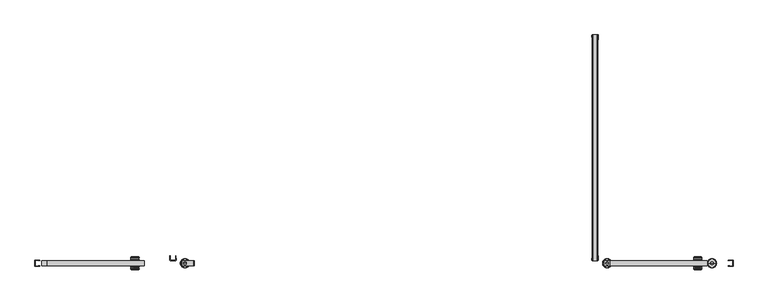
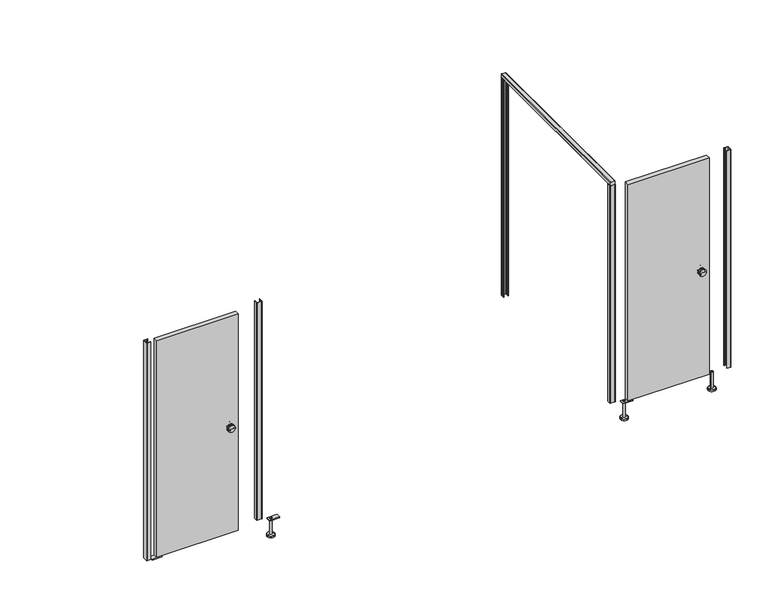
"""IFC4 building model written with IfcOpenShell, lengths in millimetres: proxy geometry, Partition_EuroStyle-Bradley_Corp-5StandardStall-NEP-LOFT : Partition_EuroStyle-Bradley_Corp-5StandardStall-NEP-LOFT."""

from ifc_helpers import new_model, si_unit, point, frame, frame_2d, origin, place, context, project, spatial, polyline, circle_curve, ellipse_curve, trimmed, segment, composite_curve, outline, extrude, source, transform, mapped, element, save
from ifc_brep_helpers import plane_surface, cylinder_surface, revolved_surface, advanced_brep


def specialty_equipment_231d2768(model_context):
    return source(origin(), model_context, "Body", "SolidModel", [
        extrude(outline(composite_curve([segment(polyline([(2032.9666591, 3638.6203701), (2005.7492965, 3639.0741806)]), True, "CONTINUOUS"), segment(trimmed(circle_curve(frame_2d((2005.762, 3639.8360747)), 0.762), [point((2005.7492965, 3639.0741806))], [point((2005.0, 3639.8360747))], False, "CARTESIAN"), True, "CONTINUOUS"), segment(polyline([(2005.0, 3639.8360747), (2005.0, 3673.3733505)]), True, "CONTINUOUS"), segment(trimmed(circle_curve(frame_2d((2005.79375, 3673.3733505)), 0.79375), [point((2005.0, 3673.3733505))], [point((2005.7805172, 3674.1669902))], False, "CARTESIAN"), True, "CONTINUOUS"), segment(polyline([(2005.7805172, 3674.1669902), (2032.9666591, 3674.6202802)]), True, "CONTINUOUS"), segment(trimmed(circle_curve(frame_2d((2033.0000015, 3672.6205597)), 1.9999985), [point((2032.9666591, 3674.6202802))], [point((2035.0, 3672.6205597))], False, "CARTESIAN"), True, "CONTINUOUS"), segment(polyline([(2035.0, 3672.6205597), (2035.0, 3640.6200907)]), True, "CONTINUOUS"), segment(trimmed(circle_curve(frame_2d((2033.0000015, 3640.6200907)), 1.9999985), [point((2035.0, 3640.6200907))], [point((2032.9666591, 3638.6203701))], False, "CARTESIAN"), True, "CONTINUOUS")], self_intersect=False)), frame((0.0, -1524.0, 0.0), z_axis=(0.0, 1.0, 0.0), x_axis=(0.0, 0.0, 1.0)), (0.0, 0.0, 1.0), 1524.0),
        extrude(outline(composite_curve([segment(polyline([(3636.1288796, -1491.4999998), (3637.6274652, -1491.4999998)]), True, "CONTINUOUS"), segment(trimmed(circle_curve(frame_2d((3637.6238978, -1492.4990918)), 0.9990984), [point((3637.6274652, -1491.4999998))], [point((3638.0975504, -1493.3787798))], False, "CARTESIAN"), True, "CONTINUOUS"), segment(polyline([(3638.0975504, -1493.3787798), (3637.9764404, -1500.6424298)]), True, "CONTINUOUS"), segment(trimmed(circle_curve(frame_2d((3637.4588945, -1501.4999449)), 1.0015917), [point((3637.9764404, -1500.6424298))], [point((3637.9475604, -1502.3742398))], False, "CARTESIAN"), True, "CONTINUOUS"), segment(polyline([(3637.9475604, -1502.3742398), (3637.6535049, -1520.0104531)]), True, "CONTINUOUS"), segment(trimmed(circle_curve(frame_2d((3639.6536968, -1519.9997796)), 2.0002204), [point((3637.6535049, -1520.0104531))], [point((3639.6536968, -1522.0))], True, "CARTESIAN"), True, "CONTINUOUS"), segment(polyline([(3639.6536968, -1522.0), (3673.5379958, -1522.0)]), True, "CONTINUOUS"), segment(trimmed(circle_curve(frame_2d((3673.5870154, -1520.0009061)), 1.9996948), [point((3673.5379958, -1522.0))], [point((3675.58671, -1520.0))], True, "CARTESIAN"), True, "CONTINUOUS"), segment(polyline([(3675.58671, -1520.0), (3675.2926587, -1502.3739987)]), True, "CONTINUOUS"), segment(trimmed(circle_curve(frame_2d((3675.7817558, -1501.4999449)), 1.0015917), [point((3675.2926587, -1502.3739987))], [point((3675.2642099, -1500.6424298))], False, "CARTESIAN"), True, "CONTINUOUS"), segment(polyline([(3675.2642099, -1500.6424298), (3675.1430999, -1493.3787798)]), True, "CONTINUOUS"), segment(trimmed(circle_curve(frame_2d((3675.6167525, -1492.4990918)), 0.9990984), [point((3675.1430999, -1493.3787798))], [point((3675.6131851, -1491.4999998))], False, "CARTESIAN"), True, "CONTINUOUS"), segment(polyline([(3675.6131851, -1491.4999998), (3677.1117707, -1491.4999998), (3677.6201098, -1521.97082)]), True, "CONTINUOUS"), segment(trimmed(circle_curve(frame_2d((3675.5909298, -1521.97082)), 2.02918), [point((3677.6201098, -1521.97082))], [point((3675.5909298, -1524.0))], False, "CARTESIAN"), True, "CONTINUOUS"), segment(polyline([(3675.5909298, -1524.0), (3637.6497205, -1524.0)]), True, "CONTINUOUS"), segment(trimmed(circle_curve(frame_2d((3637.6497205, -1521.97082)), 2.02918), [point((3637.6497205, -1524.0))], [point((3635.6205405, -1521.97082))], False, "CARTESIAN"), True, "CONTINUOUS"), segment(polyline([(3635.6205405, -1521.97082), (3636.1288796, -1491.4999998)]), True, "CONTINUOUS")], self_intersect=False)), frame((0.0, 0.0, 150.0), z_axis=(0.0, 0.0, 1.0), x_axis=(1.0, 0.0, 0.0)), (0.0, 0.0, 1.0), 1855.0),
        extrude(outline(polyline([(146.0000008, 3719.518346), (138.0669895, 3719.518346), (138.0669895, 3799.3655791), (146.0000008, 3799.267017), (146.0000008, 3719.518346)])), frame((0.0, -1559.4621549, 0.0), z_axis=(0.0, 1.0, 0.0), x_axis=(0.0, 0.0, 1.0)), (0.0, 0.0, 1.0), 34.925),
        advanced_brep(
        [(3747.118345, -1541.9996549, 150.0000008), (3729.1183456, -1541.9996549, 150.0000008), (3729.1183456, -1541.9996549, 12.0000001), (3747.118345, -1541.9996549, 12.0000001), (3738.1183453, -1541.9996549, 150.0000008), (3769.1183443, -1541.9996549, 0.0), (3707.1183464, -1541.9996549, 0.0), (3738.1183453, -1541.9996549, 0.0), (3769.1183443, -1541.9996549, 10.0000001), (3707.1183464, -1541.9996549, 10.0000001), (3767.1159324, -1541.9996549, 12.0000001), (3709.1207583, -1541.9996549, 12.0000001)],
        [
            (0, 1, circle_curve(frame((3738.1183453, -1541.9996549, 150.0000008), z_axis=(0.0, 0.0, -1.0), x_axis=(-1.0, 0.0, 0.0)), 8.9999997)),
            (1, 2),
            (2, 3, circle_curve(frame((3738.1183453, -1541.9996549, 12.0000001), z_axis=(0.0, 0.0, 1.0), x_axis=(-1.0, 0.0, 0.0)), 8.9999997)),
            (3, 0),
            (1, 0, circle_curve(frame((3738.1183453, -1541.9996549, 150.0000008), z_axis=(0.0, 0.0, -1.0), x_axis=(-1.0, 0.0, 0.0)), 8.9999997)),
            (3, 2, circle_curve(frame((3738.1183453, -1541.9996549, 12.0000001), z_axis=(0.0, 0.0, 1.0), x_axis=(-1.0, 0.0, 0.0)), 8.9999997)),
            (4, 1),
            (0, 4),
            (5, 6, circle_curve(frame((3738.1183453, -1541.9996549, 0.0), z_axis=(0.0, 0.0, -1.0), x_axis=(-1.0, 0.0, 0.0)), 30.9999989)),
            (6, 7),
            (7, 5),
            (6, 5, circle_curve(frame((3738.1183453, -1541.9996549, 0.0), z_axis=(0.0, 0.0, -1.0), x_axis=(-1.0, 0.0, 0.0)), 30.9999989)),
            (8, 9, circle_curve(frame((3738.1183453, -1541.9996549, 10.0000001), z_axis=(0.0, 0.0, -1.0), x_axis=(-1.0, 0.0, 0.0)), 30.9999989)),
            (9, 6),
            (5, 8),
            (9, 8, circle_curve(frame((3738.1183453, -1541.9996549, 10.0000001), z_axis=(0.0, 0.0, -1.0), x_axis=(-1.0, 0.0, 0.0)), 30.9999989)),
            (10, 11, circle_curve(frame((3738.1183453, -1541.9996549, 12.0000001), z_axis=(0.0, 0.0, -1.0), x_axis=(-1.0, 0.0, 0.0)), 28.997587)),
            (11, 9),
            (8, 10),
            (11, 10, circle_curve(frame((3738.1183453, -1541.9996549, 12.0000001), z_axis=(0.0, 0.0, -1.0), x_axis=(-1.0, 0.0, 0.0)), 28.997587)),
            (2, 11),
            (10, 3),
        ],
        [
            cylinder_surface(frame((3738.1183453, -1541.9996549, 0.0), z_axis=(0.0, 0.0, 1.0), x_axis=(-1.0, 0.0, 0.0)), 8.9999997),
            plane_surface(frame((3738.1183453, -1541.9996549, 150.0000008), z_axis=(0.0, 0.0, 1.0), x_axis=(-1.0, 0.0, 0.0))),
            plane_surface(frame((3738.1183453, -1541.9996549, 0.0), z_axis=(0.0, 0.0, -1.0), x_axis=(-1.0, 0.0, 0.0))),
            cylinder_surface(frame((3738.1183453, -1541.9996549, 0.0), z_axis=(0.0, 0.0, 1.0), x_axis=(-1.0, 0.0, 0.0)), 30.9999989),
            revolved_surface(polyline([(3707.1183464, -1541.9996549, 10.0000001), (3709.1207583, -1541.9996549, 12.0000001)]), (3738.1183453, -1541.9996549, 0.0), (0.0, 0.0, 1.0)),
            plane_surface(frame((3738.1183453, -1541.9996549, 12.0000001), z_axis=(0.0, 0.0, 1.0), x_axis=(-1.0, 0.0, 0.0))),
        ],
        [
            (0, [[1, 2, 3, 4]]),
            (0, [[5, -4, 6, -2]]),
            (1, [[7, -1, 8]]),
            (1, [[-8, -5, -7]]),
            (2, [[9, 10, 11]]),
            (2, [[12, -11, -10]]),
            (3, [[13, 14, -9, 15]]),
            (3, [[16, -15, -12, -14]]),
            (4, [[17, 18, -13, 19]]),
            (4, [[20, -19, -16, -18]]),
            (5, [[-3, 21, -17, 22]]),
            (5, [[-6, -22, -20, -21]]),
        ],
    ),
        advanced_brep(
        [(4321.6484114, -1524.0098174, 1050.0), (4378.7984114, -1524.0098174, 1050.0), (4350.2234114, -1524.0098174, 1050.0), (4321.6484114, -1519.2473174, 1050.0), (4378.7984114, -1519.2473174, 1050.0), (4321.6484114, -1500.1973174, 1050.0), (4378.7984114, -1500.1973174, 1050.0), (4378.7984114, -1504.9598174, 1050.0), (4321.6484114, -1504.9598174, 1050.0), (4377.2109114, -1506.5473174, 1050.0), (4323.2359114, -1506.5473174, 1050.0), (4377.2109114, -1517.6598174, 1050.0), (4323.2359114, -1517.6598174, 1050.0), (4350.2234114, -1498.6098174, 1050.0)],
        [
            (0, 1, circle_curve(frame((4350.2234114, -1524.0098174, 1050.0), z_axis=(0.0, -1.0, 0.0), x_axis=(1.0000000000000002, 0.0, 0.0)), 28.575)),
            (1, 2),
            (2, 0),
            (1, 0, circle_curve(frame((4350.2234114, -1524.0098174, 1050.0), z_axis=(0.0, -1.0, 0.0), x_axis=(1.0000000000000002, 0.0, 0.0)), 28.575)),
            (3, 4, circle_curve(frame((4350.2234114, -1519.2473174, 1050.0), z_axis=(0.0, -1.0, 0.0), x_axis=(1.0000000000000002, 0.0, 0.0)), 28.575)),
            (4, 1),
            (0, 3),
            (4, 3, circle_curve(frame((4350.2234114, -1519.2473174, 1050.0), z_axis=(0.0, -1.0, 0.0), x_axis=(1.0000000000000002, 0.0, 0.0)), 28.575)),
            (5, 6, circle_curve(frame((4350.2234114, -1500.1973174, 1050.0), z_axis=(0.0, -1.0, 0.0), x_axis=(1.0000000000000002, 0.0, 0.0)), 28.575)),
            (6, 7),
            (7, 8, circle_curve(frame((4350.2234114, -1504.9598174, 1050.0), z_axis=(0.0, 1.0, 0.0), x_axis=(1.0000000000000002, 0.0, 0.0)), 28.575)),
            (8, 5),
            (6, 5, circle_curve(frame((4350.2234114, -1500.1973174, 1050.0), z_axis=(0.0, -1.0, 0.0), x_axis=(1.0000000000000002, 0.0, 0.0)), 28.575)),
            (8, 7, circle_curve(frame((4350.2234114, -1504.9598174, 1050.0), z_axis=(0.0, 1.0, 0.0), x_axis=(1.0000000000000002, 0.0, 0.0)), 28.575)),
            (7, 9, circle_curve(frame((4378.7984114, -1506.5473174, 1050.0), z_axis=(0.0, 0.0, 1.0), x_axis=(1.0000000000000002, 0.0, 0.0)), 1.5875)),
            (9, 10, circle_curve(frame((4350.2234114, -1506.5473174, 1050.0), z_axis=(0.0, 1.0, 0.0), x_axis=(1.0000000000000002, 0.0, 0.0)), 26.9875)),
            (10, 8, circle_curve(frame((4321.6484114, -1506.5473174, 1050.0), z_axis=(0.0, 0.0, 1.0), x_axis=(-1.0000000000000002, 0.0, 0.0)), 1.5875)),
            (10, 9, circle_curve(frame((4350.2234114, -1506.5473174, 1050.0), z_axis=(0.0, 1.0, 0.0), x_axis=(1.0000000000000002, 0.0, 0.0)), 26.9875)),
            (9, 11),
            (11, 12, circle_curve(frame((4350.2234114, -1517.6598174, 1050.0), z_axis=(0.0, 1.0, 0.0), x_axis=(1.0000000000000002, 0.0, 0.0)), 26.9875)),
            (12, 10),
            (12, 11, circle_curve(frame((4350.2234114, -1517.6598174, 1050.0), z_axis=(0.0, 1.0, 0.0), x_axis=(1.0000000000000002, 0.0, 0.0)), 26.9875)),
            (11, 4, circle_curve(frame((4378.7984114, -1517.6598174, 1050.0), z_axis=(0.0, 0.0, 1.0), x_axis=(1.0000000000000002, 0.0, 0.0)), 1.5875)),
            (3, 12, circle_curve(frame((4321.6484114, -1517.6598174, 1050.0), z_axis=(0.0, 0.0, 1.0), x_axis=(-1.0000000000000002, 0.0, 0.0)), 1.5875)),
            (13, 6, circle_curve(frame((4353.9175348, -1690.0843466, 1050.0), z_axis=(0.0, 0.0, -1.0), x_axis=(1.0000000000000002, 0.0, 0.0)), 191.5101613)),
            (5, 13, circle_curve(frame((4346.5292881, -1690.0843466, 1050.0), z_axis=(0.0, 0.0, -1.0), x_axis=(-1.0000000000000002, 0.0, 0.0)), 191.5101613)),
        ],
        [
            plane_surface(frame((4350.2234114, -1524.0098174, 1050.0), z_axis=(0.0, -1.0, 0.0), x_axis=(1.0, 0.0, 0.0))),
            cylinder_surface(frame((4350.2234114, -1524.0098174, 1050.0), z_axis=(0.0, 1.0000000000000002, 0.0), x_axis=(1.0000000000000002, 0.0, 0.0)), 28.575),
            revolved_surface(trimmed(ellipse_curve(frame((4378.7984114, -1506.5473174, 1050.0), z_axis=(0.0, 0.0, -1.0), x_axis=(1.0000000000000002, 0.0, 0.0)), 1.5875, 1.5875), [point((4377.2109114, -1506.5473174, 1050.0))], [point((4378.7984114, -1504.9598174, 1050.0))], True, "CARTESIAN"), (4350.2234114, -1524.0098174, 1050.0), (0.0, 1.0000000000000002, 0.0)),
            cylinder_surface(frame((4350.2234114, -1524.0098174, 1050.0), z_axis=(0.0, 1.0000000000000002, 0.0), x_axis=(1.0000000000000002, 0.0, 0.0)), 26.9875),
            revolved_surface(trimmed(ellipse_curve(frame((4378.7984114, -1517.6598174, 1050.0), z_axis=(0.0, 0.0, -1.0), x_axis=(1.0000000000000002, 0.0, 0.0)), 1.5875, 1.5875), [point((4378.7984114, -1519.2473174, 1050.0))], [point((4377.2109114, -1517.6598174, 1050.0))], True, "CARTESIAN"), (4350.2234114, -1524.0098174, 1050.0), (0.0, 1.0000000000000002, 0.0)),
            revolved_surface(trimmed(ellipse_curve(frame((4353.9175348, -1690.0843466, 1050.0), z_axis=(0.0, 0.0, 1.0), x_axis=(1.0000000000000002, 0.0, 0.0)), 191.5101613, 191.5101613), [point((4378.7984114, -1500.1973174, 1050.0))], [point((4350.2234114, -1498.6098174, 1050.0))], True, "CARTESIAN"), (4350.2234114, -1524.0098174, 1050.0), (0.0, 1.0000000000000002, 0.0)),
        ],
        [
            (0, [[1, 2, 3]]),
            (0, [[4, -3, -2]]),
            (1, [[5, 6, -1, 7]]),
            (1, [[8, -7, -4, -6]]),
            (1, [[9, 10, 11, 12]]),
            (1, [[13, -12, 14, -10]]),
            (2, [[-11, 15, 16, 17]]),
            (2, [[-14, -17, 18, -15]]),
            (3, [[-16, 19, 20, 21]]),
            (3, [[-18, -21, 22, -19]]),
            (4, [[-20, 23, -5, 24]]),
            (4, [[-22, -24, -8, -23]]),
            (5, [[25, -9, 26]]),
            (5, [[-26, -13, -25]]),
        ],
    ),
        advanced_brep(
        [(4350.2234114, -1560.0098174, 1050.0), (4378.7984114, -1560.0098174, 1050.0), (4321.6484114, -1560.0098174, 1050.0), (4378.7984114, -1564.7723174, 1050.0), (4321.6484114, -1564.7723174, 1050.0), (4321.6484114, -1579.0598174, 1050.0), (4378.7984114, -1579.0598174, 1050.0), (4378.7984114, -1583.8223174, 1050.0), (4321.6484114, -1583.8223174, 1050.0), (4323.2359114, -1577.4723174, 1050.0), (4377.2109114, -1577.4723174, 1050.0), (4323.2359114, -1566.3598174, 1050.0), (4377.2109114, -1566.3598174, 1050.0), (4350.2234114, -1585.4098174, 1050.0)],
        [
            (0, 1),
            (1, 2, circle_curve(frame((4350.2234114, -1560.0098174, 1050.0), z_axis=(0.0, 1.0, 0.0), x_axis=(1.0000000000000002, 0.0, 0.0)), 28.575)),
            (2, 0),
            (2, 1, circle_curve(frame((4350.2234114, -1560.0098174, 1050.0), z_axis=(0.0, 1.0, 0.0), x_axis=(1.0000000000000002, 0.0, 0.0)), 28.575)),
            (1, 3),
            (3, 4, circle_curve(frame((4350.2234114, -1564.7723174, 1050.0), z_axis=(0.0, 1.0, 0.0), x_axis=(1.0000000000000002, 0.0, 0.0)), 28.575)),
            (4, 2),
            (4, 3, circle_curve(frame((4350.2234114, -1564.7723174, 1050.0), z_axis=(0.0, 1.0, 0.0), x_axis=(1.0000000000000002, 0.0, 0.0)), 28.575)),
            (5, 6, circle_curve(frame((4350.2234114, -1579.0598174, 1050.0), z_axis=(0.0, -1.0, 0.0), x_axis=(1.0000000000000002, 0.0, 0.0)), 28.575)),
            (6, 7),
            (7, 8, circle_curve(frame((4350.2234114, -1583.8223174, 1050.0), z_axis=(0.0, 1.0, 0.0), x_axis=(1.0000000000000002, 0.0, 0.0)), 28.575)),
            (8, 5),
            (6, 5, circle_curve(frame((4350.2234114, -1579.0598174, 1050.0), z_axis=(0.0, -1.0, 0.0), x_axis=(1.0000000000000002, 0.0, 0.0)), 28.575)),
            (8, 7, circle_curve(frame((4350.2234114, -1583.8223174, 1050.0), z_axis=(0.0, 1.0, 0.0), x_axis=(1.0000000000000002, 0.0, 0.0)), 28.575)),
            (9, 10, circle_curve(frame((4350.2234114, -1577.4723174, 1050.0), z_axis=(0.0, -1.0, 0.0), x_axis=(1.0000000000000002, 0.0, 0.0)), 26.9875)),
            (10, 6, circle_curve(frame((4378.7984114, -1577.4723174, 1050.0), z_axis=(0.0, 0.0, 1.0), x_axis=(1.0000000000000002, 0.0, 0.0)), 1.5875)),
            (5, 9, circle_curve(frame((4321.6484114, -1577.4723174, 1050.0), z_axis=(0.0, 0.0, 1.0), x_axis=(-1.0000000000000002, 0.0, 0.0)), 1.5875)),
            (10, 9, circle_curve(frame((4350.2234114, -1577.4723174, 1050.0), z_axis=(0.0, -1.0, 0.0), x_axis=(1.0000000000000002, 0.0, 0.0)), 26.9875)),
            (11, 12, circle_curve(frame((4350.2234114, -1566.3598174, 1050.0), z_axis=(0.0, -1.0, 0.0), x_axis=(1.0000000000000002, 0.0, 0.0)), 26.9875)),
            (12, 10),
            (9, 11),
            (12, 11, circle_curve(frame((4350.2234114, -1566.3598174, 1050.0), z_axis=(0.0, -1.0, 0.0), x_axis=(1.0000000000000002, 0.0, 0.0)), 26.9875)),
            (3, 12, circle_curve(frame((4378.7984114, -1566.3598174, 1050.0), z_axis=(0.0, 0.0, 1.0), x_axis=(1.0000000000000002, 0.0, 0.0)), 1.5875)),
            (11, 4, circle_curve(frame((4321.6484114, -1566.3598174, 1050.0), z_axis=(0.0, 0.0, 1.0), x_axis=(-1.0000000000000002, 0.0, 0.0)), 1.5875)),
            (7, 13, circle_curve(frame((4353.9175348, -1393.9352882, 1050.0), z_axis=(0.0, 0.0, -1.0), x_axis=(1.0000000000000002, 0.0, 0.0)), 191.5101613)),
            (13, 8, circle_curve(frame((4346.5292881, -1393.9352882, 1050.0), z_axis=(0.0, 0.0, -1.0), x_axis=(-1.0000000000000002, 0.0, 0.0)), 191.5101613)),
        ],
        [
            plane_surface(frame((4350.2234114, -1560.0098174, 1050.0), z_axis=(0.0, 1.0, 0.0), x_axis=(1.0, 0.0, 0.0))),
            cylinder_surface(frame((4350.2234114, -1560.0098174, 1050.0), z_axis=(0.0, 1.0000000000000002, 0.0), x_axis=(1.0000000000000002, 0.0, 0.0)), 28.575),
            revolved_surface(trimmed(ellipse_curve(frame((4378.7984114, -1577.4723174, 1050.0), z_axis=(0.0, 0.0, -1.0), x_axis=(1.0000000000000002, 0.0, 0.0)), 1.5875, 1.5875), [point((4378.7984114, -1579.0598174, 1050.0))], [point((4377.2109114, -1577.4723174, 1050.0))], True, "CARTESIAN"), (4350.2234114, -1560.0098174, 1050.0), (0.0, 1.0000000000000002, 0.0)),
            cylinder_surface(frame((4350.2234114, -1560.0098174, 1050.0), z_axis=(0.0, 1.0000000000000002, 0.0), x_axis=(1.0000000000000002, 0.0, 0.0)), 26.9875),
            revolved_surface(trimmed(ellipse_curve(frame((4378.7984114, -1566.3598174, 1050.0), z_axis=(0.0, 0.0, -1.0), x_axis=(1.0000000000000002, 0.0, 0.0)), 1.5875, 1.5875), [point((4377.2109114, -1566.3598174, 1050.0))], [point((4378.7984114, -1564.7723174, 1050.0))], True, "CARTESIAN"), (4350.2234114, -1560.0098174, 1050.0), (0.0, 1.0000000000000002, 0.0)),
            revolved_surface(trimmed(ellipse_curve(frame((4353.9175348, -1393.9352882, 1050.0), z_axis=(0.0, 0.0, 1.0), x_axis=(1.0000000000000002, 0.0, 0.0)), 191.5101613, 191.5101613), [point((4350.2234114, -1585.4098174, 1050.0))], [point((4378.7984114, -1583.8223174, 1050.0))], True, "CARTESIAN"), (4350.2234114, -1560.0098174, 1050.0), (0.0, 1.0000000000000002, 0.0)),
        ],
        [
            (0, [[1, 2, 3]]),
            (0, [[-3, 4, -1]]),
            (1, [[-2, 5, 6, 7]]),
            (1, [[-4, -7, 8, -5]]),
            (1, [[9, 10, 11, 12]]),
            (1, [[13, -12, 14, -10]]),
            (2, [[15, 16, -9, 17]]),
            (2, [[18, -17, -13, -16]]),
            (3, [[19, 20, -15, 21]]),
            (3, [[22, -21, -18, -20]]),
            (4, [[-6, 23, -19, 24]]),
            (4, [[-8, -24, -22, -23]]),
            (5, [[-11, 25, 26]]),
            (5, [[-14, -26, -25]]),
        ],
    ),
        extrude(outline(polyline([(3758.6203251, -1523.9894923), (4413.7234114, -1523.9894923), (4413.7234114, -1560.0098174), (3758.6203251, -1560.0098174), (3758.6203251, -1523.9894923)])), frame((0.0, 0.0, 150.1179687), z_axis=(0.0, 0.0, 1.0), x_axis=(1.0, 0.0, 0.0)), (0.0, 0.0, 1.0), 1845.8820313),
        extrude(outline(composite_curve([segment(polyline([(3636.1288796, -32.5000002), (3635.6205405, -2.02918)]), True, "CONTINUOUS"), segment(trimmed(circle_curve(frame_2d((3637.6497205, -2.02918)), 2.02918), [point((3635.6205405, -2.02918))], [point((3637.6497205, 0.0))], False, "CARTESIAN"), True, "CONTINUOUS"), segment(polyline([(3637.6497205, 0.0), (3675.5909298, 0.0)]), True, "CONTINUOUS"), segment(trimmed(circle_curve(frame_2d((3675.5909298, -2.02918)), 2.02918), [point((3675.5909298, 0.0))], [point((3677.6201098, -2.02918))], False, "CARTESIAN"), True, "CONTINUOUS"), segment(polyline([(3677.6201098, -2.02918), (3677.1117707, -32.5000002), (3675.6131851, -32.5000002)]), True, "CONTINUOUS"), segment(trimmed(circle_curve(frame_2d((3675.6167525, -31.5009082)), 0.9990984), [point((3675.6131851, -32.5000002))], [point((3675.1430999, -30.6212202))], False, "CARTESIAN"), True, "CONTINUOUS"), segment(polyline([(3675.1430999, -30.6212202), (3675.2642099, -23.3575702)]), True, "CONTINUOUS"), segment(trimmed(circle_curve(frame_2d((3675.7817558, -22.5000551)), 1.0015917), [point((3675.2642099, -23.3575702))], [point((3675.2926587, -21.6260013))], False, "CARTESIAN"), True, "CONTINUOUS"), segment(polyline([(3675.2926587, -21.6260013), (3675.58671, -4.0)]), True, "CONTINUOUS"), segment(trimmed(circle_curve(frame_2d((3673.5870154, -3.9990939)), 1.9996948), [point((3675.58671, -4.0))], [point((3673.5379958, -2.0))], True, "CARTESIAN"), True, "CONTINUOUS"), segment(polyline([(3673.5379958, -2.0), (3639.6536968, -2.0)]), True, "CONTINUOUS"), segment(trimmed(circle_curve(frame_2d((3639.6536968, -4.0002204)), 2.0002204), [point((3639.6536968, -2.0))], [point((3637.6535049, -3.9895469))], True, "CARTESIAN"), True, "CONTINUOUS"), segment(polyline([(3637.6535049, -3.9895469), (3637.9475604, -21.6257602)]), True, "CONTINUOUS"), segment(trimmed(circle_curve(frame_2d((3637.4588945, -22.5000551)), 1.0015917), [point((3637.9475604, -21.6257602))], [point((3637.9764404, -23.3575702))], False, "CARTESIAN"), True, "CONTINUOUS"), segment(polyline([(3637.9764404, -23.3575702), (3638.0975504, -30.6212202)]), True, "CONTINUOUS"), segment(trimmed(circle_curve(frame_2d((3637.6238978, -31.5009082)), 0.9990984), [point((3638.0975504, -30.6212202))], [point((3637.6274652, -32.5000002))], False, "CARTESIAN"), True, "CONTINUOUS"), segment(polyline([(3637.6274652, -32.5000002), (3636.1288796, -32.5000002)]), True, "CONTINUOUS")], self_intersect=False)), frame((0.0, 0.0, 150.0), z_axis=(0.0, 0.0, 1.0), x_axis=(1.0, 0.0, 0.0)), (0.0, 0.0, 1.0), 1855.0),
        extrude(outline(composite_curve([segment(polyline([(4556.5203249, -1562.4911004), (4556.5203249, -1560.9925148)]), True, "CONTINUOUS"), segment(trimmed(circle_curve(frame_2d((4557.519417, -1560.9960822)), 0.9990984), [point((4556.5203249, -1560.9925148))], [point((4558.3991049, -1560.5224296))], False, "CARTESIAN"), True, "CONTINUOUS"), segment(polyline([(4558.3991049, -1560.5224296), (4565.662755, -1560.6435396)]), True, "CONTINUOUS"), segment(trimmed(circle_curve(frame_2d((4566.5202701, -1561.1610855)), 1.0015917), [point((4565.662755, -1560.6435396))], [point((4567.394565, -1560.6724196))], False, "CARTESIAN"), True, "CONTINUOUS"), segment(polyline([(4567.394565, -1560.6724196), (4585.0307782, -1560.9664751)]), True, "CONTINUOUS"), segment(trimmed(circle_curve(frame_2d((4585.0201048, -1558.9662832)), 2.0002204), [point((4585.0307782, -1560.9664751))], [point((4587.0203252, -1558.9662832))], True, "CARTESIAN"), True, "CONTINUOUS"), segment(polyline([(4587.0203252, -1558.9662832), (4587.0203251, -1525.0819842)]), True, "CONTINUOUS"), segment(trimmed(circle_curve(frame_2d((4585.0212312, -1525.0329646)), 1.9996948), [point((4587.0203251, -1525.0819842))], [point((4585.0203251, -1523.03327))], True, "CARTESIAN"), True, "CONTINUOUS"), segment(polyline([(4585.0203251, -1523.03327), (4567.3943238, -1523.3273213)]), True, "CONTINUOUS"), segment(trimmed(circle_curve(frame_2d((4566.5202701, -1522.8382242)), 1.0015917), [point((4567.3943238, -1523.3273213))], [point((4565.662755, -1523.3557701))], False, "CARTESIAN"), True, "CONTINUOUS"), segment(polyline([(4565.662755, -1523.3557701), (4558.3991049, -1523.4768801)]), True, "CONTINUOUS"), segment(trimmed(circle_curve(frame_2d((4557.519417, -1523.0032275)), 0.9990984), [point((4558.3991049, -1523.4768801))], [point((4556.5203249, -1523.0067949))], False, "CARTESIAN"), True, "CONTINUOUS"), segment(polyline([(4556.5203249, -1523.0067949), (4556.5203249, -1521.5082093), (4586.9911451, -1520.9998702)]), True, "CONTINUOUS"), segment(trimmed(circle_curve(frame_2d((4586.9911451, -1523.0290502)), 2.02918), [point((4586.9911451, -1520.9998702))], [point((4589.0203251, -1523.0290502))], False, "CARTESIAN"), True, "CONTINUOUS"), segment(polyline([(4589.0203251, -1523.0290502), (4589.0203251, -1560.9702595)]), True, "CONTINUOUS"), segment(trimmed(circle_curve(frame_2d((4586.9911451, -1560.9702595)), 2.02918), [point((4589.0203251, -1560.9702595))], [point((4586.9911451, -1562.9994395))], False, "CARTESIAN"), True, "CONTINUOUS"), segment(polyline([(4586.9911451, -1562.9994395), (4556.5203249, -1562.4911004)]), True, "CONTINUOUS")], self_intersect=False)), frame((0.0, 0.0, 150.0), z_axis=(0.0, 0.0, 1.0), x_axis=(1.0, 0.0, 0.0)), (0.0, 0.0, 1.0), 1855.0),
        advanced_brep(
        [(4437.1433456, -1541.9996549, 150.0000008), (4455.143345, -1541.9996549, 150.0000008), (4455.143345, -1541.9996549, 12.0000001), (4437.1433456, -1541.9996549, 12.0000001), (4446.1433453, -1541.9996549, 150.0000008), (4415.1433464, -1541.9996549, 0.0), (4477.1433443, -1541.9996549, 0.0), (4446.1433453, -1541.9996549, 0.0), (4415.1433464, -1541.9996549, 10.0000001), (4477.1433443, -1541.9996549, 10.0000001), (4417.1457583, -1541.9996549, 12.0000001), (4475.1409324, -1541.9996549, 12.0000001)],
        [
            (0, 1, circle_curve(frame((4446.1433453, -1541.9996549, 150.0000008), z_axis=(0.0, 0.0, -1.0), x_axis=(1.0, 0.0, 0.0)), 8.9999997)),
            (1, 2),
            (2, 3, circle_curve(frame((4446.1433453, -1541.9996549, 12.0000001), z_axis=(0.0, 0.0, 1.0), x_axis=(1.0, 0.0, 0.0)), 8.9999997)),
            (3, 0),
            (1, 0, circle_curve(frame((4446.1433453, -1541.9996549, 150.0000008), z_axis=(0.0, 0.0, -1.0), x_axis=(1.0, 0.0, 0.0)), 8.9999997)),
            (3, 2, circle_curve(frame((4446.1433453, -1541.9996549, 12.0000001), z_axis=(0.0, 0.0, 1.0), x_axis=(1.0, 0.0, 0.0)), 8.9999997)),
            (4, 1),
            (0, 4),
            (5, 6, circle_curve(frame((4446.1433453, -1541.9996549, 0.0), z_axis=(0.0, 0.0, -1.0), x_axis=(1.0, 0.0, 0.0)), 30.9999989)),
            (6, 7),
            (7, 5),
            (6, 5, circle_curve(frame((4446.1433453, -1541.9996549, 0.0), z_axis=(0.0, 0.0, -1.0), x_axis=(1.0, 0.0, 0.0)), 30.9999989)),
            (8, 9, circle_curve(frame((4446.1433453, -1541.9996549, 10.0000001), z_axis=(0.0, 0.0, -1.0), x_axis=(1.0, 0.0, 0.0)), 30.9999989)),
            (9, 6),
            (5, 8),
            (9, 8, circle_curve(frame((4446.1433453, -1541.9996549, 10.0000001), z_axis=(0.0, 0.0, -1.0), x_axis=(1.0, 0.0, 0.0)), 30.9999989)),
            (10, 11, circle_curve(frame((4446.1433453, -1541.9996549, 12.0000001), z_axis=(0.0, 0.0, -1.0), x_axis=(1.0, 0.0, 0.0)), 28.997587)),
            (11, 9),
            (8, 10),
            (11, 10, circle_curve(frame((4446.1433453, -1541.9996549, 12.0000001), z_axis=(0.0, 0.0, -1.0), x_axis=(1.0, 0.0, 0.0)), 28.997587)),
            (2, 11),
            (10, 3),
        ],
        [
            cylinder_surface(frame((4446.1433453, -1541.9996549, 0.0), z_axis=(0.0, 0.0, 1.0), x_axis=(1.0, 0.0, 0.0)), 8.9999997),
            plane_surface(frame((4446.1433453, -1541.9996549, 150.0000008), z_axis=(0.0, 0.0, 1.0), x_axis=(1.0, 0.0, 0.0))),
            plane_surface(frame((4446.1433453, -1541.9996549, 0.0), z_axis=(0.0, 0.0, -1.0), x_axis=(1.0, 0.0, 0.0))),
            cylinder_surface(frame((4446.1433453, -1541.9996549, 0.0), z_axis=(0.0, 0.0, 1.0), x_axis=(1.0, 0.0, 0.0)), 30.9999989),
            revolved_surface(polyline([(4477.1433443, -1541.9996549, 10.0000001), (4475.1409324, -1541.9996549, 12.0000001)]), (4446.1433453, -1541.9996549, 0.0), (0.0, 0.0, 1.0)),
            plane_surface(frame((4446.1433453, -1541.9996549, 12.0000001), z_axis=(0.0, 0.0, 1.0), x_axis=(1.0, 0.0, 0.0))),
        ],
        [
            (0, [[1, 2, 3, 4]]),
            (0, [[5, -4, 6, -2]]),
            (1, [[7, -1, 8]]),
            (1, [[-8, -5, -7]]),
            (2, [[9, 10, 11]]),
            (2, [[12, -11, -10]]),
            (3, [[13, 14, -9, 15]]),
            (3, [[16, -15, -12, -14]]),
            (4, [[17, 18, -13, 19]]),
            (4, [[20, -19, -16, -18]]),
            (5, [[-3, 21, -17, 22]]),
            (5, [[-6, -22, -20, -21]]),
        ],
    ),
        extrude(outline(composite_curve([segment(polyline([(784.918717, -1491.4999998), (786.4173026, -1491.4999998)]), True, "CONTINUOUS"), segment(trimmed(circle_curve(frame_2d((786.4137352, -1492.4990918)), 0.9990984), [point((786.4173026, -1491.4999998))], [point((786.8873879, -1493.3787798))], False, "CARTESIAN"), True, "CONTINUOUS"), segment(polyline([(786.8873879, -1493.3787798), (786.7662779, -1500.6424298)]), True, "CONTINUOUS"), segment(trimmed(circle_curve(frame_2d((786.248732, -1501.4999449)), 1.0015917), [point((786.7662779, -1500.6424298))], [point((786.7373979, -1502.3742398))], False, "CARTESIAN"), True, "CONTINUOUS"), segment(polyline([(786.7373979, -1502.3742398), (786.4433424, -1520.0104531)]), True, "CONTINUOUS"), segment(trimmed(circle_curve(frame_2d((788.4435342, -1519.9997796)), 2.0002204), [point((786.4433424, -1520.0104531))], [point((788.4435342, -1522.0))], True, "CARTESIAN"), True, "CONTINUOUS"), segment(polyline([(788.4435342, -1522.0), (822.3278332, -1522.0)]), True, "CONTINUOUS"), segment(trimmed(circle_curve(frame_2d((822.3768528, -1520.0009061)), 1.9996948), [point((822.3278332, -1522.0))], [point((824.3765475, -1520.0))], True, "CARTESIAN"), True, "CONTINUOUS"), segment(polyline([(824.3765475, -1520.0), (824.0824961, -1502.3739987)]), True, "CONTINUOUS"), segment(trimmed(circle_curve(frame_2d((824.5715932, -1501.4999449)), 1.0015917), [point((824.0824961, -1502.3739987))], [point((824.0540473, -1500.6424298))], False, "CARTESIAN"), True, "CONTINUOUS"), segment(polyline([(824.0540473, -1500.6424298), (823.9329373, -1493.3787798)]), True, "CONTINUOUS"), segment(trimmed(circle_curve(frame_2d((824.4065899, -1492.4990918)), 0.9990984), [point((823.9329373, -1493.3787798))], [point((824.4030225, -1491.4999998))], False, "CARTESIAN"), True, "CONTINUOUS"), segment(polyline([(824.4030225, -1491.4999998), (825.9016081, -1491.4999998), (826.4099473, -1521.97082)]), True, "CONTINUOUS"), segment(trimmed(circle_curve(frame_2d((824.3807672, -1521.97082)), 2.02918), [point((826.4099473, -1521.97082))], [point((824.3807672, -1524.0))], False, "CARTESIAN"), True, "CONTINUOUS"), segment(polyline([(824.3807672, -1524.0), (786.4395579, -1524.0)]), True, "CONTINUOUS"), segment(trimmed(circle_curve(frame_2d((786.4395579, -1521.97082)), 2.02918), [point((786.4395579, -1524.0))], [point((784.4103779, -1521.97082))], False, "CARTESIAN"), True, "CONTINUOUS"), segment(polyline([(784.4103779, -1521.97082), (784.918717, -1491.4999998)]), True, "CONTINUOUS")], self_intersect=False)), frame((0.0, 0.0, 150.0), z_axis=(0.0, 0.0, 1.0), x_axis=(1.0, 0.0, 0.0)), (0.0, 0.0, 1.0), 1855.0),
        extrude(outline(polyline([(146.0000008, 867.8203258), (138.0669895, 867.8203258), (138.0669895, 947.6675589), (146.0000008, 947.5689968), (146.0000008, 867.8203258)])), frame((0.0, -1559.4621549, 0.0), z_axis=(0.0, 1.0, 0.0), x_axis=(0.0, 0.0, 1.0)), (0.0, 0.0, 1.0), 34.925),
        advanced_brep(
        [(895.4203248, -1541.9996549, 150.0000008), (877.4203255, -1541.9996549, 150.0000008), (877.4203255, -1541.9996549, 12.0000001), (895.4203248, -1541.9996549, 12.0000001), (886.4203251, -1541.9996549, 150.0000008), (917.4203241, -1541.9996549, 0.0), (855.4203262, -1541.9996549, 0.0), (886.4203251, -1541.9996549, 0.0), (917.4203241, -1541.9996549, 10.0000001), (855.4203262, -1541.9996549, 10.0000001), (915.4179122, -1541.9996549, 12.0000001), (857.4227381, -1541.9996549, 12.0000001)],
        [
            (0, 1, circle_curve(frame((886.4203251, -1541.9996549, 150.0000008), z_axis=(0.0, 0.0, -1.0), x_axis=(-1.0, 0.0, 0.0)), 8.9999997)),
            (1, 2),
            (2, 3, circle_curve(frame((886.4203251, -1541.9996549, 12.0000001), z_axis=(0.0, 0.0, 1.0), x_axis=(-1.0, 0.0, 0.0)), 8.9999997)),
            (3, 0),
            (1, 0, circle_curve(frame((886.4203251, -1541.9996549, 150.0000008), z_axis=(0.0, 0.0, -1.0), x_axis=(-1.0, 0.0, 0.0)), 8.9999997)),
            (3, 2, circle_curve(frame((886.4203251, -1541.9996549, 12.0000001), z_axis=(0.0, 0.0, 1.0), x_axis=(-1.0, 0.0, 0.0)), 8.9999997)),
            (4, 1),
            (0, 4),
            (5, 6, circle_curve(frame((886.4203251, -1541.9996549, 0.0), z_axis=(0.0, 0.0, -1.0), x_axis=(-1.0, 0.0, 0.0)), 30.9999989)),
            (6, 7),
            (7, 5),
            (6, 5, circle_curve(frame((886.4203251, -1541.9996549, 0.0), z_axis=(0.0, 0.0, -1.0), x_axis=(-1.0, 0.0, 0.0)), 30.9999989)),
            (8, 9, circle_curve(frame((886.4203251, -1541.9996549, 10.0000001), z_axis=(0.0, 0.0, -1.0), x_axis=(-1.0, 0.0, 0.0)), 30.9999989)),
            (9, 6),
            (5, 8),
            (9, 8, circle_curve(frame((886.4203251, -1541.9996549, 10.0000001), z_axis=(0.0, 0.0, -1.0), x_axis=(-1.0, 0.0, 0.0)), 30.9999989)),
            (10, 11, circle_curve(frame((886.4203251, -1541.9996549, 12.0000001), z_axis=(0.0, 0.0, -1.0), x_axis=(-1.0, 0.0, 0.0)), 28.997587)),
            (11, 9),
            (8, 10),
            (11, 10, circle_curve(frame((886.4203251, -1541.9996549, 12.0000001), z_axis=(0.0, 0.0, -1.0), x_axis=(-1.0, 0.0, 0.0)), 28.997587)),
            (2, 11),
            (10, 3),
        ],
        [
            cylinder_surface(frame((886.4203251, -1541.9996549, 0.0), z_axis=(0.0, 0.0, 1.0), x_axis=(-1.0, 0.0, 0.0)), 8.9999997),
            plane_surface(frame((886.4203251, -1541.9996549, 150.0000008), z_axis=(0.0, 0.0, 1.0), x_axis=(-1.0, 0.0, 0.0))),
            plane_surface(frame((886.4203251, -1541.9996549, 0.0), z_axis=(0.0, 0.0, -1.0), x_axis=(-1.0, 0.0, 0.0))),
            cylinder_surface(frame((886.4203251, -1541.9996549, 0.0), z_axis=(0.0, 0.0, 1.0), x_axis=(-1.0, 0.0, 0.0)), 30.9999989),
            revolved_surface(polyline([(855.4203262, -1541.9996549, 10.0000001), (857.4227381, -1541.9996549, 12.0000001)]), (886.4203251, -1541.9996549, 0.0), (0.0, 0.0, 1.0)),
            plane_surface(frame((886.4203251, -1541.9996549, 12.0000001), z_axis=(0.0, 0.0, 1.0), x_axis=(-1.0, 0.0, 0.0))),
        ],
        [
            (0, [[1, 2, 3, 4]]),
            (0, [[5, -4, 6, -2]]),
            (1, [[7, -1, 8]]),
            (1, [[-8, -5, -7]]),
            (2, [[9, 10, 11]]),
            (2, [[12, -11, -10]]),
            (3, [[13, 14, -9, 15]]),
            (3, [[16, -15, -12, -14]]),
            (4, [[17, 18, -13, 19]]),
            (4, [[20, -19, -16, -18]]),
            (5, [[-3, 21, -17, 22]]),
            (5, [[-6, -22, -20, -21]]),
        ],
    ),
        advanced_brep(
        [(520.025, -1524.0203251, 1050.0), (577.175, -1524.0203251, 1050.0), (548.6, -1524.0203251, 1050.0), (520.025, -1519.2578251, 1050.0), (577.175, -1519.2578251, 1050.0), (520.025, -1500.2078251, 1050.0), (577.175, -1500.2078251, 1050.0), (577.175, -1504.9703251, 1050.0), (520.025, -1504.9703251, 1050.0), (575.5875, -1506.5578251, 1050.0), (521.6125, -1506.5578251, 1050.0), (575.5875, -1517.6703251, 1050.0), (521.6125, -1517.6703251, 1050.0), (548.6, -1498.6203251, 1050.0)],
        [
            (0, 1, circle_curve(frame((548.6, -1524.0203251, 1050.0), z_axis=(0.0, -1.0, 0.0), x_axis=(1.0000000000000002, 0.0, 0.0)), 28.575)),
            (1, 2),
            (2, 0),
            (1, 0, circle_curve(frame((548.6, -1524.0203251, 1050.0), z_axis=(0.0, -1.0, 0.0), x_axis=(1.0000000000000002, 0.0, 0.0)), 28.575)),
            (3, 4, circle_curve(frame((548.6, -1519.2578251, 1050.0), z_axis=(0.0, -1.0, 0.0), x_axis=(1.0000000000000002, 0.0, 0.0)), 28.575)),
            (4, 1),
            (0, 3),
            (4, 3, circle_curve(frame((548.6, -1519.2578251, 1050.0), z_axis=(0.0, -1.0, 0.0), x_axis=(1.0000000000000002, 0.0, 0.0)), 28.575)),
            (5, 6, circle_curve(frame((548.6, -1500.2078251, 1050.0), z_axis=(0.0, -1.0, 0.0), x_axis=(1.0000000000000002, 0.0, 0.0)), 28.575)),
            (6, 7),
            (7, 8, circle_curve(frame((548.6, -1504.9703251, 1050.0), z_axis=(0.0, 1.0, 0.0), x_axis=(1.0000000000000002, 0.0, 0.0)), 28.575)),
            (8, 5),
            (6, 5, circle_curve(frame((548.6, -1500.2078251, 1050.0), z_axis=(0.0, -1.0, 0.0), x_axis=(1.0000000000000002, 0.0, 0.0)), 28.575)),
            (8, 7, circle_curve(frame((548.6, -1504.9703251, 1050.0), z_axis=(0.0, 1.0, 0.0), x_axis=(1.0000000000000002, 0.0, 0.0)), 28.575)),
            (7, 9, circle_curve(frame((577.175, -1506.5578251, 1050.0), z_axis=(0.0, 0.0, 1.0), x_axis=(1.0000000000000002, 0.0, 0.0)), 1.5875)),
            (9, 10, circle_curve(frame((548.6, -1506.5578251, 1050.0), z_axis=(0.0, 1.0, 0.0), x_axis=(1.0000000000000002, 0.0, 0.0)), 26.9875)),
            (10, 8, circle_curve(frame((520.025, -1506.5578251, 1050.0), z_axis=(0.0, 0.0, 1.0), x_axis=(-1.0000000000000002, 0.0, 0.0)), 1.5875)),
            (10, 9, circle_curve(frame((548.6, -1506.5578251, 1050.0), z_axis=(0.0, 1.0, 0.0), x_axis=(1.0000000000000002, 0.0, 0.0)), 26.9875)),
            (9, 11),
            (11, 12, circle_curve(frame((548.6, -1517.6703251, 1050.0), z_axis=(0.0, 1.0, 0.0), x_axis=(1.0000000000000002, 0.0, 0.0)), 26.9875)),
            (12, 10),
            (12, 11, circle_curve(frame((548.6, -1517.6703251, 1050.0), z_axis=(0.0, 1.0, 0.0), x_axis=(1.0000000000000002, 0.0, 0.0)), 26.9875)),
            (11, 4, circle_curve(frame((577.175, -1517.6703251, 1050.0), z_axis=(0.0, 0.0, 1.0), x_axis=(1.0000000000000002, 0.0, 0.0)), 1.5875)),
            (3, 12, circle_curve(frame((520.025, -1517.6703251, 1050.0), z_axis=(0.0, 0.0, 1.0), x_axis=(-1.0000000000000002, 0.0, 0.0)), 1.5875)),
            (13, 6, circle_curve(frame((552.2941234, -1690.0948544, 1050.0), z_axis=(0.0, 0.0, -1.0), x_axis=(1.0000000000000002, 0.0, 0.0)), 191.5101613)),
            (5, 13, circle_curve(frame((544.9058766, -1690.0948544, 1050.0), z_axis=(0.0, 0.0, -1.0), x_axis=(-1.0000000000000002, 0.0, 0.0)), 191.5101613)),
        ],
        [
            plane_surface(frame((548.6, -1524.0203251, 1050.0), z_axis=(0.0, -1.0, 0.0), x_axis=(1.0, 0.0, 0.0))),
            cylinder_surface(frame((548.6, -1524.0203251, 1050.0), z_axis=(0.0, 1.0000000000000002, 0.0), x_axis=(1.0000000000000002, 0.0, 0.0)), 28.575),
            revolved_surface(trimmed(ellipse_curve(frame((577.175, -1506.5578251, 1050.0), z_axis=(0.0, 0.0, -1.0), x_axis=(1.0000000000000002, 0.0, 0.0)), 1.5875, 1.5875), [point((575.5875, -1506.5578251, 1050.0))], [point((577.175, -1504.9703251, 1050.0))], True, "CARTESIAN"), (548.6, -1524.0203251, 1050.0), (0.0, 1.0000000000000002, 0.0)),
            cylinder_surface(frame((548.6, -1524.0203251, 1050.0), z_axis=(0.0, 1.0000000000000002, 0.0), x_axis=(1.0000000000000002, 0.0, 0.0)), 26.9875),
            revolved_surface(trimmed(ellipse_curve(frame((577.175, -1517.6703251, 1050.0), z_axis=(0.0, 0.0, -1.0), x_axis=(1.0000000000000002, 0.0, 0.0)), 1.5875, 1.5875), [point((577.175, -1519.2578251, 1050.0))], [point((575.5875, -1517.6703251, 1050.0))], True, "CARTESIAN"), (548.6, -1524.0203251, 1050.0), (0.0, 1.0000000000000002, 0.0)),
            revolved_surface(trimmed(ellipse_curve(frame((552.2941234, -1690.0948544, 1050.0), z_axis=(0.0, 0.0, 1.0), x_axis=(1.0000000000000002, 0.0, 0.0)), 191.5101613, 191.5101613), [point((577.175, -1500.2078251, 1050.0))], [point((548.6, -1498.6203251, 1050.0))], True, "CARTESIAN"), (548.6, -1524.0203251, 1050.0), (0.0, 1.0000000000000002, 0.0)),
        ],
        [
            (0, [[1, 2, 3]]),
            (0, [[4, -3, -2]]),
            (1, [[5, 6, -1, 7]]),
            (1, [[8, -7, -4, -6]]),
            (1, [[9, 10, 11, 12]]),
            (1, [[13, -12, 14, -10]]),
            (2, [[-11, 15, 16, 17]]),
            (2, [[-14, -17, 18, -15]]),
            (3, [[-16, 19, 20, 21]]),
            (3, [[-18, -21, 22, -19]]),
            (4, [[-20, 23, -5, 24]]),
            (4, [[-22, -24, -8, -23]]),
            (5, [[25, -9, 26]]),
            (5, [[-26, -13, -25]]),
        ],
    ),
        advanced_brep(
        [(548.6, -1560.0203251, 1050.0), (577.175, -1560.0203251, 1050.0), (520.025, -1560.0203251, 1050.0), (577.175, -1564.7828251, 1050.0), (520.025, -1564.7828251, 1050.0), (520.025, -1579.0703251, 1050.0), (577.175, -1579.0703251, 1050.0), (577.175, -1583.8328251, 1050.0), (520.025, -1583.8328251, 1050.0), (521.6125, -1577.4828251, 1050.0), (575.5875, -1577.4828251, 1050.0), (521.6125, -1566.3703251, 1050.0), (575.5875, -1566.3703251, 1050.0), (548.6, -1585.4203251, 1050.0)],
        [
            (0, 1),
            (1, 2, circle_curve(frame((548.6, -1560.0203251, 1050.0), z_axis=(0.0, 1.0, 0.0), x_axis=(1.0000000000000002, 0.0, 0.0)), 28.575)),
            (2, 0),
            (2, 1, circle_curve(frame((548.6, -1560.0203251, 1050.0), z_axis=(0.0, 1.0, 0.0), x_axis=(1.0000000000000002, 0.0, 0.0)), 28.575)),
            (1, 3),
            (3, 4, circle_curve(frame((548.6, -1564.7828251, 1050.0), z_axis=(0.0, 1.0, 0.0), x_axis=(1.0000000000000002, 0.0, 0.0)), 28.575)),
            (4, 2),
            (4, 3, circle_curve(frame((548.6, -1564.7828251, 1050.0), z_axis=(0.0, 1.0, 0.0), x_axis=(1.0000000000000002, 0.0, 0.0)), 28.575)),
            (5, 6, circle_curve(frame((548.6, -1579.0703251, 1050.0), z_axis=(0.0, -1.0, 0.0), x_axis=(1.0000000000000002, 0.0, 0.0)), 28.575)),
            (6, 7),
            (7, 8, circle_curve(frame((548.6, -1583.8328251, 1050.0), z_axis=(0.0, 1.0, 0.0), x_axis=(1.0000000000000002, 0.0, 0.0)), 28.575)),
            (8, 5),
            (6, 5, circle_curve(frame((548.6, -1579.0703251, 1050.0), z_axis=(0.0, -1.0, 0.0), x_axis=(1.0000000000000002, 0.0, 0.0)), 28.575)),
            (8, 7, circle_curve(frame((548.6, -1583.8328251, 1050.0), z_axis=(0.0, 1.0, 0.0), x_axis=(1.0000000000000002, 0.0, 0.0)), 28.575)),
            (9, 10, circle_curve(frame((548.6, -1577.4828251, 1050.0), z_axis=(0.0, -1.0, 0.0), x_axis=(1.0000000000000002, 0.0, 0.0)), 26.9875)),
            (10, 6, circle_curve(frame((577.175, -1577.4828251, 1050.0), z_axis=(0.0, 0.0, 1.0), x_axis=(1.0000000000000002, 0.0, 0.0)), 1.5875)),
            (5, 9, circle_curve(frame((520.025, -1577.4828251, 1050.0), z_axis=(0.0, 0.0, 1.0), x_axis=(-1.0000000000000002, 0.0, 0.0)), 1.5875)),
            (10, 9, circle_curve(frame((548.6, -1577.4828251, 1050.0), z_axis=(0.0, -1.0, 0.0), x_axis=(1.0000000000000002, 0.0, 0.0)), 26.9875)),
            (11, 12, circle_curve(frame((548.6, -1566.3703251, 1050.0), z_axis=(0.0, -1.0, 0.0), x_axis=(1.0000000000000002, 0.0, 0.0)), 26.9875)),
            (12, 10),
            (9, 11),
            (12, 11, circle_curve(frame((548.6, -1566.3703251, 1050.0), z_axis=(0.0, -1.0, 0.0), x_axis=(1.0000000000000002, 0.0, 0.0)), 26.9875)),
            (3, 12, circle_curve(frame((577.175, -1566.3703251, 1050.0), z_axis=(0.0, 0.0, 1.0), x_axis=(1.0000000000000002, 0.0, 0.0)), 1.5875)),
            (11, 4, circle_curve(frame((520.025, -1566.3703251, 1050.0), z_axis=(0.0, 0.0, 1.0), x_axis=(-1.0000000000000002, 0.0, 0.0)), 1.5875)),
            (7, 13, circle_curve(frame((552.2941234, -1393.9457959, 1050.0), z_axis=(0.0, 0.0, -1.0), x_axis=(1.0000000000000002, 0.0, 0.0)), 191.5101613)),
            (13, 8, circle_curve(frame((544.9058766, -1393.9457959, 1050.0), z_axis=(0.0, 0.0, -1.0), x_axis=(-1.0000000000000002, 0.0, 0.0)), 191.5101613)),
        ],
        [
            plane_surface(frame((548.6, -1560.0203251, 1050.0), z_axis=(0.0, 1.0, 0.0), x_axis=(1.0, 0.0, 0.0))),
            cylinder_surface(frame((548.6, -1560.0203251, 1050.0), z_axis=(0.0, 1.0000000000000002, 0.0), x_axis=(1.0000000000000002, 0.0, 0.0)), 28.575),
            revolved_surface(trimmed(ellipse_curve(frame((577.175, -1577.4828251, 1050.0), z_axis=(0.0, 0.0, -1.0), x_axis=(1.0000000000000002, 0.0, 0.0)), 1.5875, 1.5875), [point((577.175, -1579.0703251, 1050.0))], [point((575.5875, -1577.4828251, 1050.0))], True, "CARTESIAN"), (548.6, -1560.0203251, 1050.0), (0.0, 1.0000000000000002, 0.0)),
            cylinder_surface(frame((548.6, -1560.0203251, 1050.0), z_axis=(0.0, 1.0000000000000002, 0.0), x_axis=(1.0000000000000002, 0.0, 0.0)), 26.9875),
            revolved_surface(trimmed(ellipse_curve(frame((577.175, -1566.3703251, 1050.0), z_axis=(0.0, 0.0, -1.0), x_axis=(1.0000000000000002, 0.0, 0.0)), 1.5875, 1.5875), [point((575.5875, -1566.3703251, 1050.0))], [point((577.175, -1564.7828251, 1050.0))], True, "CARTESIAN"), (548.6, -1560.0203251, 1050.0), (0.0, 1.0000000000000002, 0.0)),
            revolved_surface(trimmed(ellipse_curve(frame((552.2941234, -1393.9457959, 1050.0), z_axis=(0.0, 0.0, 1.0), x_axis=(1.0000000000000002, 0.0, 0.0)), 191.5101613, 191.5101613), [point((548.6, -1585.4203251, 1050.0))], [point((577.175, -1583.8328251, 1050.0))], True, "CARTESIAN"), (548.6, -1560.0203251, 1050.0), (0.0, 1.0000000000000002, 0.0)),
        ],
        [
            (0, [[1, 2, 3]]),
            (0, [[-3, 4, -1]]),
            (1, [[-2, 5, 6, 7]]),
            (1, [[-4, -7, 8, -5]]),
            (1, [[9, 10, 11, 12]]),
            (1, [[13, -12, 14, -10]]),
            (2, [[15, 16, -9, 17]]),
            (2, [[18, -17, -13, -16]]),
            (3, [[19, 20, -15, 21]]),
            (3, [[22, -21, -18, -20]]),
            (4, [[-6, 23, -19, 24]]),
            (4, [[-8, -24, -22, -23]]),
            (5, [[-11, 25, 26]]),
            (5, [[-14, -26, -25]]),
        ],
    ),
        extrude(outline(polyline([(-43.0030863, -1524.0), (612.1, -1524.0), (612.1, -1560.0203251), (-43.0030863, -1560.0203251), (-43.0030863, -1524.0)])), frame((0.0, 0.0, 150.1179687), z_axis=(0.0, 0.0, 1.0), x_axis=(1.0, 0.0, 0.0)), (0.0, 0.0, 1.0), 1845.8820313),
        extrude(outline(composite_curve([segment(polyline([(-94.4999998, -1521.518717), (-94.4999998, -1523.0173026)]), True, "CONTINUOUS"), segment(trimmed(circle_curve(frame_2d((-95.4990918, -1523.0137352)), 0.9990984), [point((-94.4999998, -1523.0173026))], [point((-96.3787798, -1523.4873879))], False, "CARTESIAN"), True, "CONTINUOUS"), segment(polyline([(-96.3787798, -1523.4873879), (-103.6424298, -1523.3662779)]), True, "CONTINUOUS"), segment(trimmed(circle_curve(frame_2d((-104.4999449, -1522.848732)), 1.0015917), [point((-103.6424298, -1523.3662779))], [point((-105.3742398, -1523.3373979))], False, "CARTESIAN"), True, "CONTINUOUS"), segment(polyline([(-105.3742398, -1523.3373979), (-123.0104531, -1523.0433424)]), True, "CONTINUOUS"), segment(trimmed(circle_curve(frame_2d((-122.9997796, -1525.0435342)), 2.0002204), [point((-123.0104531, -1523.0433424))], [point((-125.0, -1525.0435342))], True, "CARTESIAN"), True, "CONTINUOUS"), segment(polyline([(-125.0, -1525.0435342), (-125.0, -1558.9278332)]), True, "CONTINUOUS"), segment(trimmed(circle_curve(frame_2d((-123.0009061, -1558.9768528)), 1.9996948), [point((-125.0, -1558.9278332))], [point((-123.0, -1560.9765475))], True, "CARTESIAN"), True, "CONTINUOUS"), segment(polyline([(-123.0, -1560.9765475), (-105.3739987, -1560.6824961)]), True, "CONTINUOUS"), segment(trimmed(circle_curve(frame_2d((-104.4999449, -1561.1715932)), 1.0015917), [point((-105.3739987, -1560.6824961))], [point((-103.6424298, -1560.6540473))], False, "CARTESIAN"), True, "CONTINUOUS"), segment(polyline([(-103.6424298, -1560.6540473), (-96.3787798, -1560.5329373)]), True, "CONTINUOUS"), segment(trimmed(circle_curve(frame_2d((-95.4990918, -1561.0065899)), 0.9990984), [point((-96.3787798, -1560.5329373))], [point((-94.4999998, -1561.0030225))], False, "CARTESIAN"), True, "CONTINUOUS"), segment(polyline([(-94.4999998, -1561.0030225), (-94.4999998, -1562.5016081), (-124.97082, -1563.0099473)]), True, "CONTINUOUS"), segment(trimmed(circle_curve(frame_2d((-124.97082, -1560.9807672)), 2.02918), [point((-124.97082, -1563.0099473))], [point((-127.0, -1560.9807672))], False, "CARTESIAN"), True, "CONTINUOUS"), segment(polyline([(-127.0, -1560.9807672), (-127.0, -1523.0395579)]), True, "CONTINUOUS"), segment(trimmed(circle_curve(frame_2d((-124.97082, -1523.0395579)), 2.02918), [point((-127.0, -1523.0395579))], [point((-124.97082, -1521.0103779))], False, "CARTESIAN"), True, "CONTINUOUS"), segment(polyline([(-124.97082, -1521.0103779), (-94.4999998, -1521.518717)]), True, "CONTINUOUS")], self_intersect=False)), frame((0.0, 0.0, 150.0), z_axis=(0.0, 0.0, 1.0), x_axis=(1.0, 0.0, 0.0)), (0.0, 0.0, 1.0), 1855.0),
        extrude(outline(polyline([(146.0000008, -82.1018307), (138.0669895, -82.1018307), (138.0669895, -2.2545975), (146.0000008, -2.3531596), (146.0000008, -82.1018307)])), frame((0.0, -1559.4726626, 0.0), z_axis=(0.0, 1.0, 0.0), x_axis=(0.0, 0.0, 1.0)), (0.0, 0.0, 1.0), 34.925),
    ])


if __name__ == "__main__":
    model = new_model("IFC4")
    model_context = context("Model", 3, world=origin())
    ifc_project = project(units=[si_unit("LENGTHUNIT", "METRE", prefix="MILLI")], contexts=[model_context])
    site = spatial("IfcSite", under=ifc_project)
    building = spatial("IfcBuilding", under=site)
    placement = place(None, origin())
    specialty_equipment_shape = specialty_equipment_231d2768(model_context)
    element("IfcBuildingElementProxy", 1, Name="Partition_EuroStyle-Bradley_Corp-5StandardStall-NEP-LOFT : Partition_EuroStyle-Bradley_Corp-5StandardStall-NEP-LOFT", ObjectType="Partition_EuroStyle-Bradley_Corp-5StandardStall-NEP-LOFT : Partition_EuroStyle-Bradley_Corp-5StandardStall-NEP-LOFT", at=placement, inside=building, context=model_context, shape_type="MappedRepresentation", body=[
        mapped(specialty_equipment_shape, transform((0.0, 0.0, 0.0), x_axis=(1.0, 0.0, 0.0), y_axis=(0.0, 1.0, 0.0), z_axis=(0.0, 0.0, 1.0))),
    ])
    save(model, "model.ifc")
